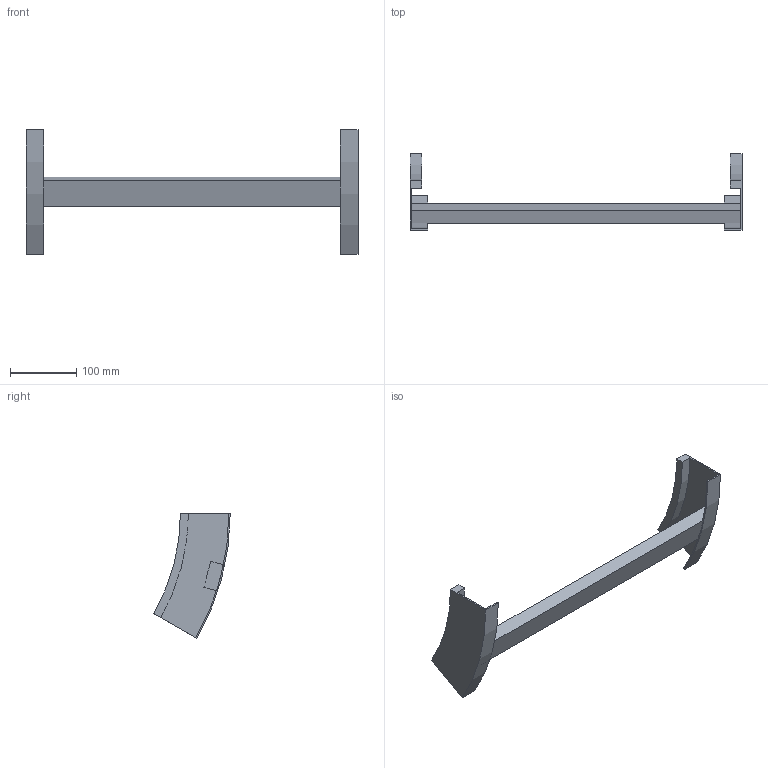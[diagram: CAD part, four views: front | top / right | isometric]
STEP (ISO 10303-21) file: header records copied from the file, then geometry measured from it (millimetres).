
FILE_DESCRIPTION (( 'STEP AP214' ), '1' );
FILE_NAME ('B2X32B3C500XX.step', '2025-03-20T10:02:53', ( '' ), ( '' ), 'SwSTEP 2.0', 'SolidWorks 2023', '' );
FILE_SCHEMA (( 'AUTOMOTIVE_DESIGN' ));
Length unit declared in the file: millimetre
Products named in the file (3): TRAVERSINO_500; B2_LONGH.SALITA_30°_H75_R300; B2X32B3C500XX
Assembly tree (3 placements, depth 2):
  B2X32B3C500XX
    B2_LONGH.SALITA_30°_H75_R300  x2
    TRAVERSINO_500
Bounding box: 500 x 115.19 x 187.5 mm (x, y, z)
Volume: 535881.9 mm3; surface area: 147468.8 mm2
Topology: 3 solids, 3 shells, 26 faces, 60 edges, 40 vertices
Faces by surface type: plane 18, cylinder 8
Entity records: 544 total; most frequent: DIRECTION 88, CARTESIAN_POINT 82, ORIENTED_EDGE 72, EDGE_CURVE 36, AXIS2_PLACEMENT_3D 30, VECTOR 28, LINE 28, VERTEX_POINT 24
